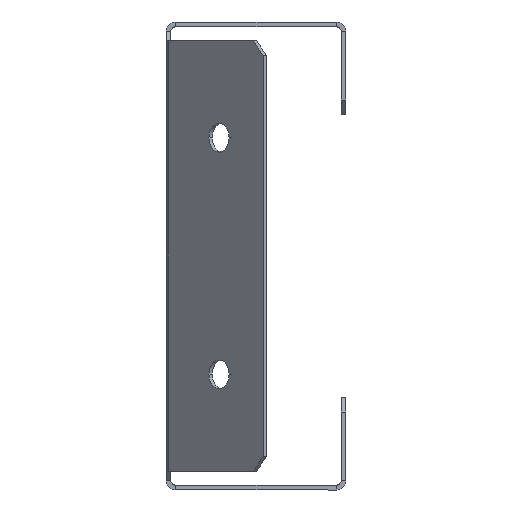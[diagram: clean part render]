
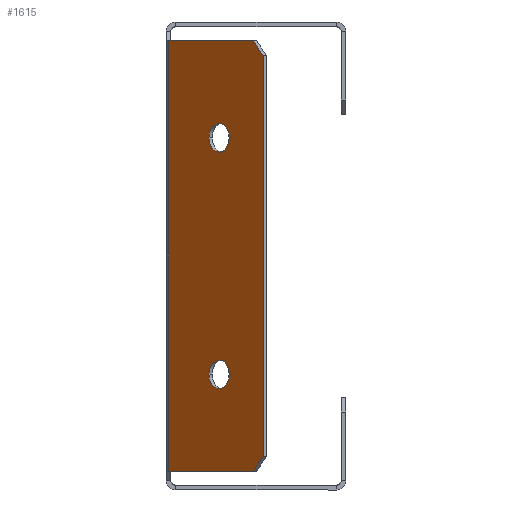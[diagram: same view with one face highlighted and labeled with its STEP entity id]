
A CAD part, left-side view. The second image highlights one B-rep face of the part: STEP entity #1615.
In plain terms, the highlighted planar face has unit normal (-0.707, 0.707, 0).
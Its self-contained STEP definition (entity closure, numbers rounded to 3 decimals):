
#42 = CIRCLE ( 'NONE', #1250, 3. ) ;
#170 = CIRCLE ( 'NONE', #497, 3. ) ;
#178 = CARTESIAN_POINT ( 'NONE',  ( -52.621, 52.207, 0. ) ) ;
#183 = EDGE_LOOP ( 'NONE', ( #211, #881 ) ) ;
#211 = ORIENTED_EDGE ( 'NONE', *, *, #214, .F. ) ;
#214 = EDGE_CURVE ( 'NONE', #420, #2421, #819, .T. ) ;
#221 = AXIS2_PLACEMENT_3D ( 'NONE', #1521, #1328, #2355 ) ;
#229 = CARTESIAN_POINT ( 'NONE',  ( -125.335, -20.506, -42.5 ) ) ;
#360 = VERTEX_POINT ( 'NONE', #1778 ) ;
#405 = CARTESIAN_POINT ( 'NONE',  ( -104.004, 0.824, 72.666 ) ) ;
#408 = EDGE_CURVE ( 'NONE', #767, #1298, #42, .T. ) ;
#413 = CARTESIAN_POINT ( 'NONE',  ( -105.414, -0.586, 0. ) ) ;
#420 = VERTEX_POINT ( 'NONE', #988 ) ;
#455 = DIRECTION ( 'NONE',  ( -0.707, 0.707, 0. ) ) ;
#470 = EDGE_CURVE ( 'NONE', #2421, #420, #170, .T. ) ;
#475 = EDGE_CURVE ( 'NONE', #3102, #508, #2285, .T. ) ;
#483 = CARTESIAN_POINT ( 'NONE',  ( -116.001, -11.172, -25. ) ) ;
#497 = AXIS2_PLACEMENT_3D ( 'NONE', #483, #2032, #3037 ) ;
#508 = VERTEX_POINT ( 'NONE', #2066 ) ;
#542 = CARTESIAN_POINT ( 'NONE',  ( -125.335, -20.506, -45.5 ) ) ;
#689 = ORIENTED_EDGE ( 'NONE', *, *, #1153, .F. ) ;
#711 = FACE_BOUND ( 'NONE', #2817, .T. ) ;
#767 = VERTEX_POINT ( 'NONE', #2467 ) ;
#805 = EDGE_CURVE ( 'NONE', #360, #508, #1702, .T. ) ;
#819 = CIRCLE ( 'NONE', #221, 3. ) ;
#832 = ORIENTED_EDGE ( 'NONE', *, *, #408, .F. ) ;
#853 = CARTESIAN_POINT ( 'NONE',  ( -125.335, -20.506, 45.5 ) ) ;
#881 = ORIENTED_EDGE ( 'NONE', *, *, #470, .F. ) ;
#922 = DIRECTION ( 'NONE',  ( -0.707, -0.707, 0. ) ) ;
#969 = DIRECTION ( 'NONE',  ( -0.707, -0.707, 0. ) ) ;
#988 = CARTESIAN_POINT ( 'NONE',  ( -118.122, -13.294, -25. ) ) ;
#1044 = DIRECTION ( 'NONE',  ( 0., 0., -1. ) ) ;
#1107 = AXIS2_PLACEMENT_3D ( 'NONE', #178, #455, #969 ) ;
#1148 = VECTOR ( 'NONE', #1450, 1000. ) ;
#1153 = EDGE_CURVE ( 'NONE', #360, #2167, #2954, .T. ) ;
#1176 = CIRCLE ( 'NONE', #1822, 3. ) ;
#1212 = FACE_OUTER_BOUND ( 'NONE', #2536, .T. ) ;
#1216 = DIRECTION ( 'NONE',  ( 0.5, 0.5, 0.707 ) ) ;
#1250 = AXIS2_PLACEMENT_3D ( 'NONE', #3239, #1900, #2914 ) ;
#1265 = CARTESIAN_POINT ( 'NONE',  ( -116.001, -11.172, 25. ) ) ;
#1298 = VERTEX_POINT ( 'NONE', #2990 ) ;
#1328 = DIRECTION ( 'NONE',  ( -0.707, 0.707, 0. ) ) ;
#1450 = DIRECTION ( 'NONE',  ( 0., 0., -1. ) ) ;
#1518 = CARTESIAN_POINT ( 'NONE',  ( -105.121, -0.293, -45.5 ) ) ;
#1521 = CARTESIAN_POINT ( 'NONE',  ( -116.001, -11.172, -25. ) ) ;
#1556 = DIRECTION ( 'NONE',  ( 0.707, 0.707, 0. ) ) ;
#1595 = CARTESIAN_POINT ( 'NONE',  ( -123.213, -18.385, 45.5 ) ) ;
#1615 = ADVANCED_FACE ( 'NONE', ( #711, #3003, #1212 ), #2759, .T. ) ;
#1616 = CARTESIAN_POINT ( 'NONE',  ( -125.335, -20.506, 42.5 ) ) ;
#1664 = CARTESIAN_POINT ( 'NONE',  ( -123.213, -18.385, -45.5 ) ) ;
#1702 = LINE ( 'NONE', #413, #1148 ) ;
#1778 = CARTESIAN_POINT ( 'NONE',  ( -105.414, -0.586, 45.5 ) ) ;
#1799 = CARTESIAN_POINT ( 'NONE',  ( -104.004, 0.824, -72.666 ) ) ;
#1817 = ORIENTED_EDGE ( 'NONE', *, *, #2623, .T. ) ;
#1822 = AXIS2_PLACEMENT_3D ( 'NONE', #1265, #3286, #3327 ) ;
#1900 = DIRECTION ( 'NONE',  ( -0.707, 0.707, 0. ) ) ;
#1988 = LINE ( 'NONE', #405, #2451 ) ;
#2032 = DIRECTION ( 'NONE',  ( -0.707, 0.707, 0. ) ) ;
#2066 = CARTESIAN_POINT ( 'NONE',  ( -105.414, -0.586, -45.5 ) ) ;
#2079 = VERTEX_POINT ( 'NONE', #1616 ) ;
#2148 = ORIENTED_EDGE ( 'NONE', *, *, #3007, .F. ) ;
#2167 = VERTEX_POINT ( 'NONE', #1595 ) ;
#2255 = ORIENTED_EDGE ( 'NONE', *, *, #2870, .F. ) ;
#2264 = CARTESIAN_POINT ( 'NONE',  ( -113.879, -9.051, -25. ) ) ;
#2280 = LINE ( 'NONE', #1799, #3055 ) ;
#2285 = LINE ( 'NONE', #1518, #2587 ) ;
#2355 = DIRECTION ( 'NONE',  ( -0.707, -0.707, 0. ) ) ;
#2420 = EDGE_CURVE ( 'NONE', #3102, #2838, #2280, .T. ) ;
#2421 = VERTEX_POINT ( 'NONE', #2264 ) ;
#2451 = VECTOR ( 'NONE', #1216, 1000. ) ;
#2467 = CARTESIAN_POINT ( 'NONE',  ( -113.879, -9.051, 25. ) ) ;
#2536 = EDGE_LOOP ( 'NONE', ( #2148, #1817, #689, #3237, #2674, #3156 ) ) ;
#2549 = VECTOR ( 'NONE', #922, 1000. ) ;
#2587 = VECTOR ( 'NONE', #1556, 1000. ) ;
#2623 = EDGE_CURVE ( 'NONE', #2079, #2167, #1988, .T. ) ;
#2669 = VECTOR ( 'NONE', #1044, 1000. ) ;
#2674 = ORIENTED_EDGE ( 'NONE', *, *, #475, .F. ) ;
#2759 = PLANE ( 'NONE',  #1107 ) ;
#2817 = EDGE_LOOP ( 'NONE', ( #2255, #832 ) ) ;
#2838 = VERTEX_POINT ( 'NONE', #229 ) ;
#2870 = EDGE_CURVE ( 'NONE', #1298, #767, #1176, .T. ) ;
#2914 = DIRECTION ( 'NONE',  ( -0.707, -0.707, 0. ) ) ;
#2954 = LINE ( 'NONE', #853, #2549 ) ;
#2990 = CARTESIAN_POINT ( 'NONE',  ( -118.122, -13.294, 25. ) ) ;
#3003 = FACE_BOUND ( 'NONE', #183, .T. ) ;
#3007 = EDGE_CURVE ( 'NONE', #2079, #2838, #3172, .T. ) ;
#3037 = DIRECTION ( 'NONE',  ( -0.707, -0.707, 0. ) ) ;
#3055 = VECTOR ( 'NONE', #3331, 1000. ) ;
#3102 = VERTEX_POINT ( 'NONE', #1664 ) ;
#3156 = ORIENTED_EDGE ( 'NONE', *, *, #2420, .T. ) ;
#3172 = LINE ( 'NONE', #542, #2669 ) ;
#3237 = ORIENTED_EDGE ( 'NONE', *, *, #805, .T. ) ;
#3239 = CARTESIAN_POINT ( 'NONE',  ( -116.001, -11.172, 25. ) ) ;
#3286 = DIRECTION ( 'NONE',  ( -0.707, 0.707, 0. ) ) ;
#3327 = DIRECTION ( 'NONE',  ( -0.707, -0.707, 0. ) ) ;
#3331 = DIRECTION ( 'NONE',  ( -0.5, -0.5, 0.707 ) ) ;
